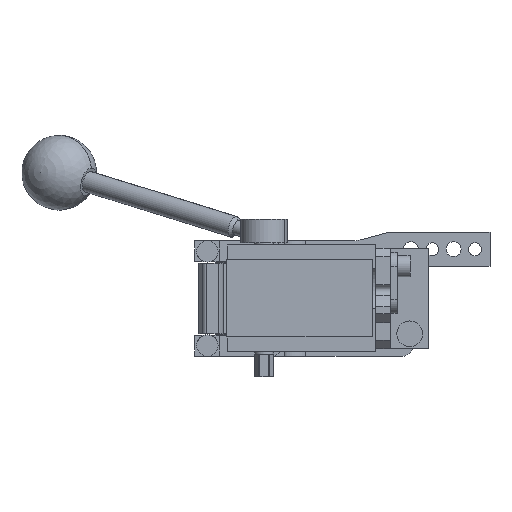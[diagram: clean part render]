
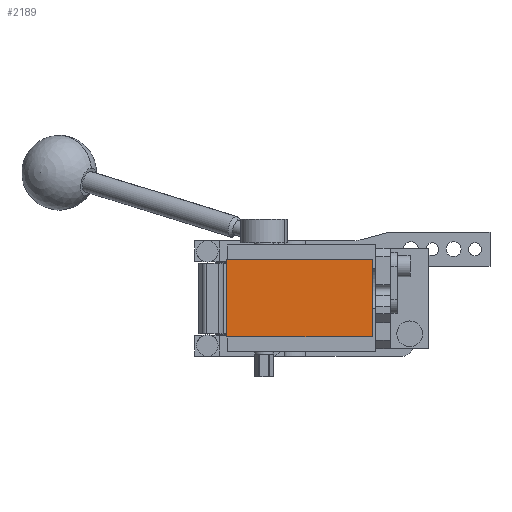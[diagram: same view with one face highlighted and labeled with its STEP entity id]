
A CAD part, front view. The second image highlights one B-rep face of the part: STEP entity #2189.
In plain terms, the highlighted planar face has unit normal (0, -1, 0).
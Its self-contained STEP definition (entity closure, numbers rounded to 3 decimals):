
#409 = EDGE_CURVE ( 'NONE', #15860, #13318, #11700, .T. ) ;
#416 = LINE ( 'NONE', #10412, #12886 ) ;
#588 = DIRECTION ( 'NONE',  ( 1., 0., 0. ) ) ;
#871 = FACE_OUTER_BOUND ( 'NONE', #14133, .T. ) ;
#935 = LINE ( 'NONE', #6132, #4823 ) ;
#1230 = VECTOR ( 'NONE', #588, 1000. ) ;
#2090 = PLANE ( 'NONE',  #6630 ) ;
#2189 = ADVANCED_FACE ( 'NONE', ( #871 ), #2090, .T. ) ;
#2253 = CARTESIAN_POINT ( 'NONE',  ( 0., -233., 0. ) ) ;
#3476 = VECTOR ( 'NONE', #14046, 1000. ) ;
#3887 = CARTESIAN_POINT ( 'NONE',  ( -6., -233., -18. ) ) ;
#4061 = VERTEX_POINT ( 'NONE', #14966 ) ;
#4165 = DIRECTION ( 'NONE',  ( 0., 0., 1. ) ) ;
#4683 = CARTESIAN_POINT ( 'NONE',  ( 62., -233., -18. ) ) ;
#4823 = VECTOR ( 'NONE', #10995, 1000. ) ;
#6132 = CARTESIAN_POINT ( 'NONE',  ( -6., -233., 18. ) ) ;
#6275 = ORIENTED_EDGE ( 'NONE', *, *, #409, .T. ) ;
#6551 = ORIENTED_EDGE ( 'NONE', *, *, #12327, .T. ) ;
#6630 = AXIS2_PLACEMENT_3D ( 'NONE', #2253, #8336, #9562 ) ;
#6674 = CARTESIAN_POINT ( 'NONE',  ( -6., -233., -18. ) ) ;
#7487 = ORIENTED_EDGE ( 'NONE', *, *, #13912, .T. ) ;
#8221 = ORIENTED_EDGE ( 'NONE', *, *, #12735, .T. ) ;
#8336 = DIRECTION ( 'NONE',  ( 0., -1., 0. ) ) ;
#9099 = CARTESIAN_POINT ( 'NONE',  ( -6., -233., 18. ) ) ;
#9562 = DIRECTION ( 'NONE',  ( 0., 0., -1. ) ) ;
#10412 = CARTESIAN_POINT ( 'NONE',  ( 62., -233., 18. ) ) ;
#10995 = DIRECTION ( 'NONE',  ( -1., 0., 0. ) ) ;
#11700 = LINE ( 'NONE', #6674, #1230 ) ;
#12327 = EDGE_CURVE ( 'NONE', #4061, #15860, #15249, .T. ) ;
#12735 = EDGE_CURVE ( 'NONE', #14054, #4061, #935, .T. ) ;
#12886 = VECTOR ( 'NONE', #4165, 1000. ) ;
#13318 = VERTEX_POINT ( 'NONE', #4683 ) ;
#13912 = EDGE_CURVE ( 'NONE', #13318, #14054, #416, .T. ) ;
#13967 = CARTESIAN_POINT ( 'NONE',  ( 62., -233., 18. ) ) ;
#14046 = DIRECTION ( 'NONE',  ( 0., 0., -1. ) ) ;
#14054 = VERTEX_POINT ( 'NONE', #13967 ) ;
#14133 = EDGE_LOOP ( 'NONE', ( #6551, #6275, #7487, #8221 ) ) ;
#14966 = CARTESIAN_POINT ( 'NONE',  ( -6., -233., 18. ) ) ;
#15249 = LINE ( 'NONE', #9099, #3476 ) ;
#15860 = VERTEX_POINT ( 'NONE', #3887 ) ;
